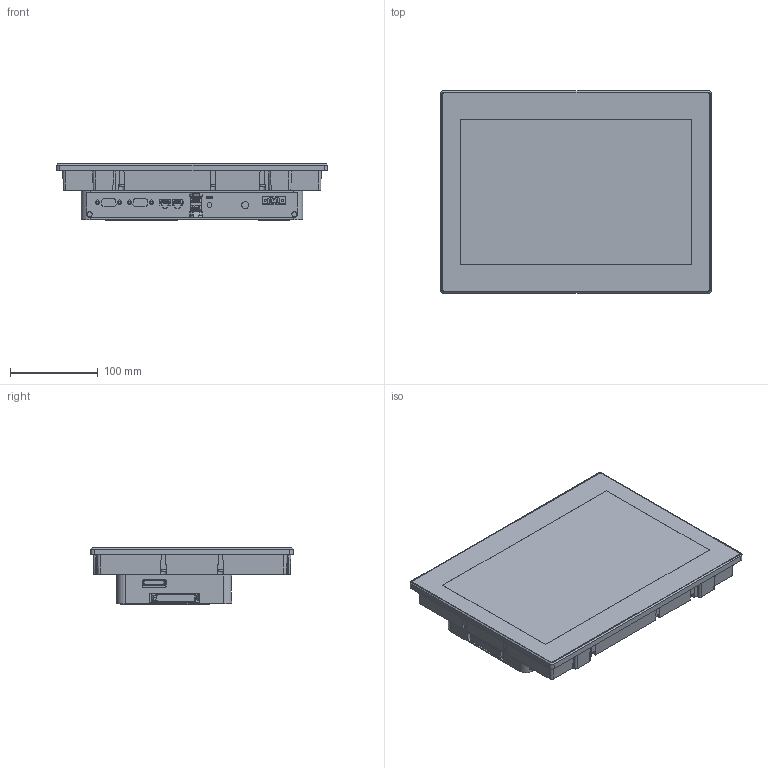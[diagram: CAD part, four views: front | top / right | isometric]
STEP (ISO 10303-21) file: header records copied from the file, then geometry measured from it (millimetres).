
FILE_DESCRIPTION (( 'STEP AP203' ), '1' );
FILE_NAME ('PFXGP6640WCAI_3D_simpl.STEP', '2024-05-30T09:40:16', ( '' ), ( '' ), 'SwSTEP 2.0', 'SolidWorks 2017', '' );
FILE_SCHEMA (( 'CONFIG_CONTROL_DESIGN' ));
Length unit declared in the file: millimetre
Products named in the file (1): PFXGP6640WCAI_3D_simpl
Bounding box: 308.5 x 230.5 x 64.28 mm (x, y, z)
Volume: 3022894.5 mm3; surface area: 232534.7 mm2
Topology: 7 solids, 13 shells, 2051 faces, 5767 edges, 3785 vertices
Faces by surface type: plane 1487, cylinder 418, bspline 95, cone 34, torus 10, sphere 7
Full cylindrical faces by diameter (mm): 2.5 x2, 2.8 x1, 2.845 x4, 3.5 x4, 4 x4, 4.1 x8, 5.6 x19, 8 x5, 8.454 x6
Entity records: 73229 total; most frequent: CARTESIAN_POINT 21481, ORIENTED_EDGE 11370, DIRECTION 9653, EDGE_CURVE 5685, LINE 4407, VECTOR 4407, VERTEX_POINT 3773, AXIS2_PLACEMENT_3D 2623
